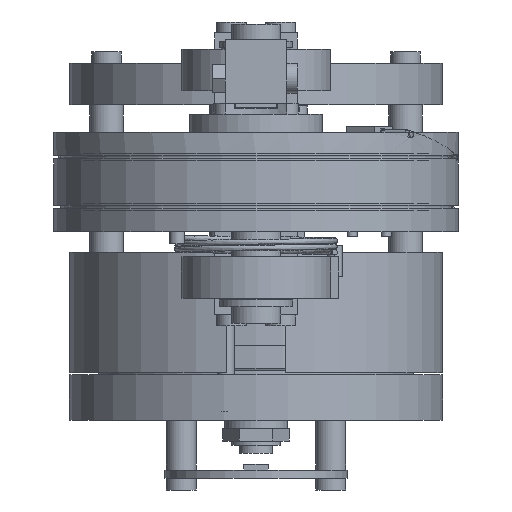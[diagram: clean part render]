
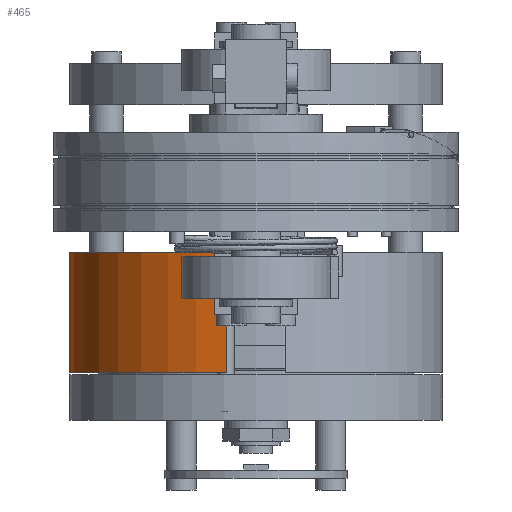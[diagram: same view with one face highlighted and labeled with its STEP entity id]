
A CAD part, front view. The second image highlights one B-rep face of the part: STEP entity #465.
In plain terms, the highlighted cylindrical face has radius 22.5 mm (diameter 45 mm), a partial arc.
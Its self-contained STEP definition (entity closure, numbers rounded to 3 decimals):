
#347 = EDGE_CURVE('',#348,#350,#352,.T.);
#348 = VERTEX_POINT('',#349);
#349 = CARTESIAN_POINT('',(22.5,90.,-19.95));
#350 = VERTEX_POINT('',#351);
#351 = CARTESIAN_POINT('',(22.5,90.,-5.45));
#352 = SURFACE_CURVE('',#353,(#357,#369),.PCURVE_S1.);
#353 = LINE('',#354,#355);
#354 = CARTESIAN_POINT('',(22.5,90.,-19.95));
#355 = VECTOR('',#356,1.);
#356 = DIRECTION('',(0.,0.,1.));
#357 = PCURVE('',#358,#363);
#358 = CYLINDRICAL_SURFACE('',#359,22.5);
#359 = AXIS2_PLACEMENT_3D('',#360,#361,#362);
#360 = CARTESIAN_POINT('',(0.,90.,-19.95));
#361 = DIRECTION('',(0.,0.,1.));
#362 = DIRECTION('',(1.,0.,-0.));
#363 = DEFINITIONAL_REPRESENTATION('',(#364),#368);
#364 = LINE('',#365,#366);
#365 = CARTESIAN_POINT('',(6.283,-0.));
#366 = VECTOR('',#367,1.);
#367 = DIRECTION('',(0.,1.));
#368 = ( GEOMETRIC_REPRESENTATION_CONTEXT(2) 
PARAMETRIC_REPRESENTATION_CONTEXT() REPRESENTATION_CONTEXT('2D SPACE',''
  ) );
#369 = PCURVE('',#370,#375);
#370 = CYLINDRICAL_SURFACE('',#371,22.5);
#371 = AXIS2_PLACEMENT_3D('',#372,#373,#374);
#372 = CARTESIAN_POINT('',(0.,90.,-19.95));
#373 = DIRECTION('',(0.,0.,1.));
#374 = DIRECTION('',(1.,0.,-0.));
#375 = DEFINITIONAL_REPRESENTATION('',(#376),#380);
#376 = LINE('',#377,#378);
#377 = CARTESIAN_POINT('',(0.,-0.));
#378 = VECTOR('',#379,1.);
#379 = DIRECTION('',(0.,1.));
#380 = ( GEOMETRIC_REPRESENTATION_CONTEXT(2) 
PARAMETRIC_REPRESENTATION_CONTEXT() REPRESENTATION_CONTEXT('2D SPACE',''
  ) );
#399 = PLANE('',#400);
#400 = AXIS2_PLACEMENT_3D('',#401,#402,#403);
#401 = CARTESIAN_POINT('',(0.,90.,-5.45));
#402 = DIRECTION('',(0.,0.,1.));
#403 = DIRECTION('',(1.,0.,-0.));
#454 = PLANE('',#455);
#455 = AXIS2_PLACEMENT_3D('',#456,#457,#458);
#456 = CARTESIAN_POINT('',(0.,90.,-19.95));
#457 = DIRECTION('',(0.,0.,1.));
#458 = DIRECTION('',(1.,0.,-0.));
#465 = ADVANCED_FACE('',(#466),#370,.T.);
#466 = FACE_BOUND('',#467,.T.);
#467 = EDGE_LOOP('',(#468,#492,#493,#517));
#468 = ORIENTED_EDGE('',*,*,#469,.F.);
#469 = EDGE_CURVE('',#350,#470,#472,.T.);
#470 = VERTEX_POINT('',#471);
#471 = CARTESIAN_POINT('',(-3.5,67.774,-5.45));
#472 = SURFACE_CURVE('',#473,(#478,#485),.PCURVE_S1.);
#473 = CIRCLE('',#474,22.5);
#474 = AXIS2_PLACEMENT_3D('',#475,#476,#477);
#475 = CARTESIAN_POINT('',(0.,90.,-5.45));
#476 = DIRECTION('',(0.,0.,1.));
#477 = DIRECTION('',(1.,0.,-0.));
#478 = PCURVE('',#370,#479);
#479 = DEFINITIONAL_REPRESENTATION('',(#480),#484);
#480 = LINE('',#481,#482);
#481 = CARTESIAN_POINT('',(0.,14.5));
#482 = VECTOR('',#483,1.);
#483 = DIRECTION('',(1.,0.));
#484 = ( GEOMETRIC_REPRESENTATION_CONTEXT(2) 
PARAMETRIC_REPRESENTATION_CONTEXT() REPRESENTATION_CONTEXT('2D SPACE',''
  ) );
#485 = PCURVE('',#399,#486);
#486 = DEFINITIONAL_REPRESENTATION('',(#487),#491);
#487 = CIRCLE('',#488,22.5);
#488 = AXIS2_PLACEMENT_2D('',#489,#490);
#489 = CARTESIAN_POINT('',(0.,0.));
#490 = DIRECTION('',(1.,0.));
#491 = ( GEOMETRIC_REPRESENTATION_CONTEXT(2) 
PARAMETRIC_REPRESENTATION_CONTEXT() REPRESENTATION_CONTEXT('2D SPACE',''
  ) );
#492 = ORIENTED_EDGE('',*,*,#347,.F.);
#493 = ORIENTED_EDGE('',*,*,#494,.T.);
#494 = EDGE_CURVE('',#348,#495,#497,.T.);
#495 = VERTEX_POINT('',#496);
#496 = CARTESIAN_POINT('',(-3.5,67.774,-19.95));
#497 = SURFACE_CURVE('',#498,(#503,#510),.PCURVE_S1.);
#498 = CIRCLE('',#499,22.5);
#499 = AXIS2_PLACEMENT_3D('',#500,#501,#502);
#500 = CARTESIAN_POINT('',(0.,90.,-19.95));
#501 = DIRECTION('',(0.,0.,1.));
#502 = DIRECTION('',(1.,0.,-0.));
#503 = PCURVE('',#370,#504);
#504 = DEFINITIONAL_REPRESENTATION('',(#505),#509);
#505 = LINE('',#506,#507);
#506 = CARTESIAN_POINT('',(0.,0.));
#507 = VECTOR('',#508,1.);
#508 = DIRECTION('',(1.,0.));
#509 = ( GEOMETRIC_REPRESENTATION_CONTEXT(2) 
PARAMETRIC_REPRESENTATION_CONTEXT() REPRESENTATION_CONTEXT('2D SPACE',''
  ) );
#510 = PCURVE('',#454,#511);
#511 = DEFINITIONAL_REPRESENTATION('',(#512),#516);
#512 = CIRCLE('',#513,22.5);
#513 = AXIS2_PLACEMENT_2D('',#514,#515);
#514 = CARTESIAN_POINT('',(0.,0.));
#515 = DIRECTION('',(1.,0.));
#516 = ( GEOMETRIC_REPRESENTATION_CONTEXT(2) 
PARAMETRIC_REPRESENTATION_CONTEXT() REPRESENTATION_CONTEXT('2D SPACE',''
  ) );
#517 = ORIENTED_EDGE('',*,*,#518,.T.);
#518 = EDGE_CURVE('',#495,#470,#519,.T.);
#519 = SURFACE_CURVE('',#520,(#524,#531),.PCURVE_S1.);
#520 = LINE('',#521,#522);
#521 = CARTESIAN_POINT('',(-3.5,67.774,-19.95));
#522 = VECTOR('',#523,1.);
#523 = DIRECTION('',(0.,0.,1.));
#524 = PCURVE('',#370,#525);
#525 = DEFINITIONAL_REPRESENTATION('',(#526),#530);
#526 = LINE('',#527,#528);
#527 = CARTESIAN_POINT('',(4.556,0.));
#528 = VECTOR('',#529,1.);
#529 = DIRECTION('',(0.,1.));
#530 = ( GEOMETRIC_REPRESENTATION_CONTEXT(2) 
PARAMETRIC_REPRESENTATION_CONTEXT() REPRESENTATION_CONTEXT('2D SPACE',''
  ) );
#531 = PCURVE('',#532,#537);
#532 = PLANE('',#533);
#533 = AXIS2_PLACEMENT_3D('',#534,#535,#536);
#534 = CARTESIAN_POINT('',(-3.5,63.,-20.7));
#535 = DIRECTION('',(1.,0.,0.));
#536 = DIRECTION('',(0.,0.,1.));
#537 = DEFINITIONAL_REPRESENTATION('',(#538),#542);
#538 = LINE('',#539,#540);
#539 = CARTESIAN_POINT('',(0.75,-4.774));
#540 = VECTOR('',#541,1.);
#541 = DIRECTION('',(1.,0.));
#542 = ( GEOMETRIC_REPRESENTATION_CONTEXT(2) 
PARAMETRIC_REPRESENTATION_CONTEXT() REPRESENTATION_CONTEXT('2D SPACE',''
  ) );
